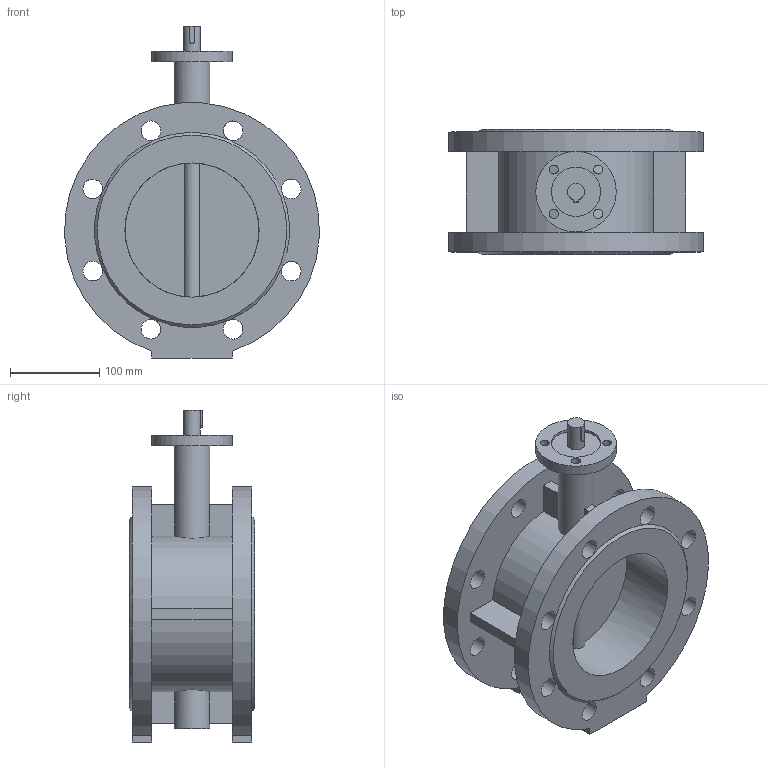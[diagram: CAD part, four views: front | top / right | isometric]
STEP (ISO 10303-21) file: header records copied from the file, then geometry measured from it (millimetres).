
FILE_DESCRIPTION(('STEP AP203'), '1');
FILE_NAME('Çàòâîð 021F.Y DN150 PN10_16 ïîä ÝÏ', '', ('UNSPECIFIED'), ('UNSPECIFIED'), 'ASCON STEP Converter 1.6', 'ASCON Math Kernel', '');
FILE_SCHEMA(('CONFIG_CONTROL_DESIGN'));
Length unit declared in the file: millimetre
Bounding box: 284.6 x 140 x 371 mm (x, y, z)
Volume: 3137954.3 mm3; surface area: 423995.7 mm2
Topology: 1 solids, 1 shells, 80 faces, 239 edges, 154 vertices
Faces by surface type: plane 42, cylinder 36, cone 2
Full cylindrical faces by diameter (mm): 10 x4, 18.9 x1, 22 x16, 40 x2, 55 x1, 90 x1, 150 x2
Entity records: 4108 total; most frequent: CARTESIAN_POINT 1323, DIRECTION 439, ORIENTED_EDGE 388, EDGE_CURVE 194, AXIS2_PLACEMENT_3D 175, EDGE_LOOP 158, VERTEX_POINT 146, FACE_BOUND 115
